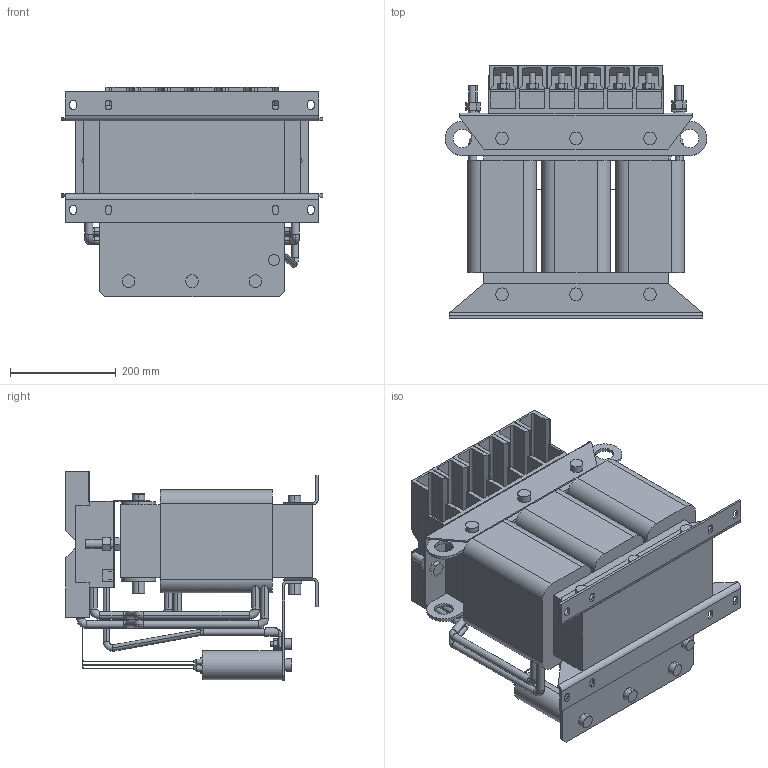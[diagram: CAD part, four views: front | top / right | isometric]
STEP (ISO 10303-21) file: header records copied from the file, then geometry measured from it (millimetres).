
FILE_DESCRIPTION (( 'STEP AP214' ), '1' );
FILE_NAME ('Kundenmodell 27Z1G04-1000^10072262_0001.STEP', '2022-11-21T14:34:29', ( '' ), ( '' ), 'SwSTEP 2.0', 'SolidWorks 2022', '' );
FILE_SCHEMA (( 'AUTOMOTIVE_DESIGN' ));
Length unit declared in the file: centimetre
Products named in the file (1): Kundenmodell 27Z1G04-1000^10072262_0001
Bounding box: 495 x 477.43 x 397.3 mm (x, y, z)
Volume: 31419577.7 mm3; surface area: 1876552 mm2
Topology: 1 solids, 1 shells, 1087 faces, 2807 edges, 1786 vertices
Faces by surface type: plane 503, cylinder 385, torus 134, bspline 33, cone 32
Entity records: 42177 total; most frequent: CARTESIAN_POINT 15056, DIRECTION 5778, ORIENTED_EDGE 5614, EDGE_CURVE 2807, AXIS2_PLACEMENT_3D 2084, VERTEX_POINT 1786, LINE 1610, VECTOR 1610
